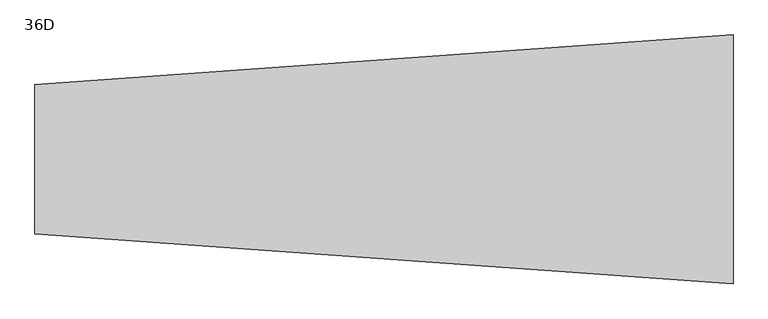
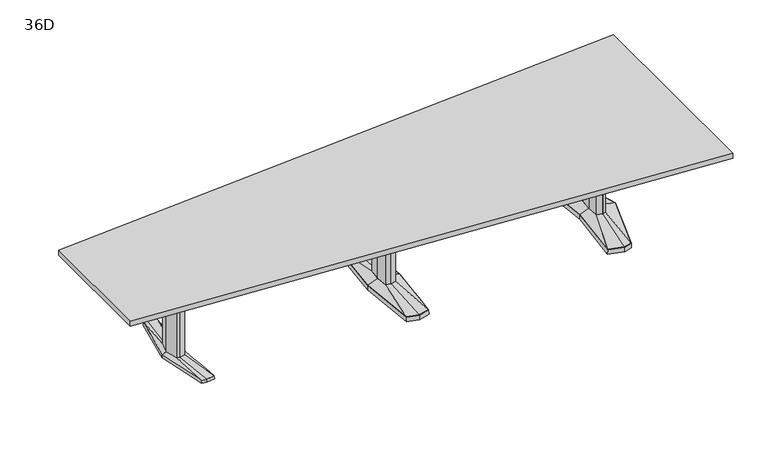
"""IFC4 building model written with IfcOpenShell, lengths in millimetres: furniture geometry, Coalesse_AM_Table_Conference_ETable2_Trapezoid_14ft_AluminiumBase : 36D."""

from ifc_helpers import new_model, si_unit, frame, origin, place, context, project, spatial, polyline, outline, extrude, faceted_brep, source, transform, mapped, element, save
from ifc_brep_helpers import plane_surface, spline_surface, advanced_brep


def furniture_36d_a6658d5b(model_context):
    return source(origin(), model_context, "Body", "SolidModel", [
        faceted_brep([(-81.2333791, -433.8053819, 38.1), (0.0, -455.556576, 38.1), (81.2333791, -433.8053819, 38.1), (119.0564774, 0.0, 38.1), (81.2333791, 433.8053819, 38.1), (0.0, 455.556576, 38.1), (-81.2333791, 433.8053819, 38.1), (-119.0564774, 0.0, 38.1), (-82.7182795, -435.0512063, 3.175), (-120.65, 0.0, 3.175), (-82.7182795, 435.0512063, 3.175), (0.0, 457.2, 3.175), (82.7182795, 435.0512063, 3.175), (120.65, 0.0, 3.175), (82.7182795, -435.0512063, 3.175), (0.0, -457.2, 3.175), (0.0, 429.2617927, 3.175), (-77.9676806, 408.3850278, 3.175), (-74.7019821, 382.9646737, 3.175), (0.0, 402.9670094, 3.175), (74.7019821, 382.9646737, 3.175), (77.9676806, 408.3850278, 3.175), (0.0, -429.2617927, 3.175), (77.9676806, -408.3850278, 3.175), (74.7019821, -382.9646737, 3.175), (0.0, -402.9670094, 3.175), (-74.7019821, -382.9646737, 3.175), (-77.9676806, -408.3850278, 3.175), (-71.8574262, 114.6326257, 3.175), (-82.5426076, 0.0, 3.175), (-71.8574262, -114.6326257, 3.175), (0.0, -133.8761372, 3.175), (71.8574262, -114.6326257, 3.175), (82.5426076, 0.0, 3.175), (71.8574262, 114.6326257, 3.175), (0.0, 133.8761372, 3.175), (0.0, 429.2617927, 0.0), (77.9676806, 408.3850278, 0.0), (74.7019821, 382.9646737, 0.0), (0.0, 402.9670094, 0.0), (-74.7019821, 382.9646737, 0.0), (-77.9676806, 408.3850278, 0.0), (0.0, -429.2617927, 0.0), (-77.9676806, -408.3850278, 0.0), (-74.7019821, -382.9646737, 0.0), (0.0, -402.9670094, 0.0), (74.7019821, -382.9646737, 0.0), (77.9676806, -408.3850278, 0.0), (-71.8574262, 114.6326257, 0.0), (0.0, 133.8761372, 0.0), (71.8574262, 114.6326257, 0.0), (82.5426076, 0.0, 0.0), (71.8574262, -114.6326257, 0.0), (0.0, -133.8761372, 0.0), (-71.8574262, -114.6326257, 0.0), (-82.5426076, 0.0, 0.0)], [[[0, 1, 2, 3, 4, 5, 6, 7]], [[8, 9, 10, 11, 12, 13, 14, 15], [16, 17, 18, 19, 20, 21], [22, 23, 24, 25, 26, 27], [28, 29, 30, 31, 32, 33, 34, 35]], [[1, 0, 8, 15]], [[2, 1, 15, 14]], [[3, 2, 14, 13]], [[4, 3, 13, 12]], [[5, 4, 12, 11]], [[6, 5, 11, 10]], [[7, 6, 10, 9]], [[0, 7, 9, 8]], [[36, 37, 38, 39, 40, 41]], [[42, 43, 44, 45, 46, 47]], [[48, 49, 50, 51, 52, 53, 54, 55]], [[36, 41, 17, 16]], [[41, 40, 18, 17]], [[40, 39, 19, 18]], [[39, 38, 20, 19]], [[38, 37, 21, 20]], [[37, 36, 16, 21]], [[42, 47, 23, 22]], [[47, 46, 24, 23]], [[46, 45, 25, 24]], [[45, 44, 26, 25]], [[44, 43, 27, 26]], [[43, 42, 22, 27]], [[48, 55, 29, 28]], [[55, 54, 30, 29]], [[54, 53, 31, 30]], [[53, 52, 32, 31]], [[52, 51, 33, 32]], [[51, 50, 34, 33]], [[50, 49, 35, 34]], [[49, 48, 28, 35]]]),
        faceted_brep([(-36.3832834, 84.6900825, 698.5), (-44.2774487, 0.0, 698.5), (-36.3832834, -84.6900825, 698.5), (0.0, -94.4335728, 698.5), (36.3832834, -84.6900825, 698.5), (44.2774487, 0.0, 698.5), (36.3832834, 84.6900825, 698.5), (0.0, 94.4335728, 698.5), (-36.3832834, 84.6900825, 63.5), (0.0, 94.4335728, 63.5), (36.3832834, 84.6900825, 63.5), (44.2774487, 0.0, 63.5), (36.3832834, -84.6900825, 63.5), (0.0, -94.4335728, 63.5), (-36.3832834, -84.6900825, 63.5), (-44.2774487, 0.0, 63.5)], [[[0, 1, 2, 3, 4, 5, 6, 7]], [[8, 9, 10, 11, 12, 13, 14, 15]], [[1, 0, 8, 15]], [[2, 1, 15, 14]], [[3, 2, 14, 13]], [[4, 3, 13, 12]], [[5, 4, 12, 11]], [[6, 5, 11, 10]], [[7, 6, 10, 9]], [[0, 7, 9, 8]]]),
        advanced_brep(
        [(-36.3832834, 84.6900825, 63.5), (-44.2774487, 0.0, 63.5), (-36.3832834, -84.6900825, 63.5), (0.0, -94.4335728, 63.5), (36.3832834, -84.6900825, 63.5), (44.2774487, 0.0, 63.5), (36.3832834, 84.6900825, 63.5), (0.0, 94.4335728, 63.5), (-81.2333791, 433.8053819, 38.1), (0.0, 455.556576, 38.1), (81.2333791, 433.8053819, 38.1), (119.0564774, 0.0, 38.1), (81.2333791, -433.8053819, 38.1), (0.0, -455.556576, 38.1), (-81.2333791, -433.8053819, 38.1), (-119.0564774, 0.0, 38.1)],
        [
            (0, 1),
            (1, 2),
            (2, 3),
            (3, 4),
            (4, 5),
            (5, 6),
            (6, 7),
            (7, 0),
            (8, 9),
            (9, 10),
            (10, 11),
            (11, 12),
            (12, 13),
            (13, 14),
            (14, 15),
            (15, 8),
            (15, 1),
            (0, 8),
            (14, 2),
            (13, 3),
            (12, 4),
            (11, 5),
            (10, 6),
            (9, 7),
        ],
        [
            plane_surface(frame((0.0, 0.0, 63.5), z_axis=(0.0, 0.0, 1.0000000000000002), x_axis=(-0.9659615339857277, -0.25868574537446, 0.0))),
            plane_surface(frame((0.0, 0.0, 38.1), z_axis=(0.0, 0.0, -1.0000000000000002), x_axis=(-0.9659615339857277, -0.25868574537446, 0.0))),
            spline_surface(1, 1, [[(-81.2333791, 433.8053819, 38.1), (-36.3832834, 84.6900825, 63.5)], [(-119.0564774, 0.0, 38.1), (-44.2774487, 0.0, 63.5)]], [2, 2], [2, 2], [0.0, 1.0], [0.0, 1.0]),
            spline_surface(1, 1, [[(-119.0564774, 0.0, 38.1), (-44.2774487, 0.0, 63.5)], [(-81.2333791, -433.8053819, 38.1), (-36.3832834, -84.6900825, 63.5)]], [2, 2], [2, 2], [0.0, 1.0], [0.0, 1.0]),
            spline_surface(1, 1, [[(-81.2333791, -433.8053819, 38.1), (-36.3832834, -84.6900825, 63.5)], [(0.0, -455.556576, 38.1), (0.0, -94.4335728, 63.5)]], [2, 2], [2, 2], [0.0, 1.0], [0.0, 1.0]),
            spline_surface(1, 1, [[(0.0, -455.556576, 38.1), (0.0, -94.4335728, 63.5)], [(81.2333791, -433.8053819, 38.1), (36.3832834, -84.6900825, 63.5)]], [2, 2], [2, 2], [0.0, 1.0], [0.0, 1.0]),
            spline_surface(1, 1, [[(81.2333791, -433.8053819, 38.1), (36.3832834, -84.6900825, 63.5)], [(119.0564774, 0.0, 38.1), (44.2774487, 0.0, 63.5)]], [2, 2], [2, 2], [0.0, 1.0], [0.0, 1.0]),
            spline_surface(1, 1, [[(119.0564774, 0.0, 38.1), (44.2774487, 0.0, 63.5)], [(81.2333791, 433.8053819, 38.1), (36.3832834, 84.6900825, 63.5)]], [2, 2], [2, 2], [0.0, 1.0], [0.0, 1.0]),
            spline_surface(1, 1, [[(81.2333791, 433.8053819, 38.1), (36.3832834, 84.6900825, 63.5)], [(0.0, 455.556576, 38.1), (0.0, 94.4335728, 63.5)]], [2, 2], [2, 2], [0.0, 1.0], [0.0, 1.0]),
            spline_surface(1, 1, [[(0.0, 455.556576, 38.1), (0.0, 94.4335728, 63.5)], [(-81.2333791, 433.8053819, 38.1), (-36.3832834, 84.6900825, 63.5)]], [2, 2], [2, 2], [0.0, 1.0], [0.0, 1.0]),
        ],
        [
            (0, [[1, 2, 3, 4, 5, 6, 7, 8]]),
            (1, [[9, 10, 11, 12, 13, 14, 15, 16]]),
            (2, [[-16, 17, -1, 18]]),
            (3, [[-15, 19, -2, -17]]),
            (4, [[-14, 20, -3, -19]]),
            (5, [[-13, 21, -4, -20]]),
            (6, [[-12, 22, -5, -21]]),
            (7, [[-11, 23, -6, -22]]),
            (8, [[-10, 24, -7, -23]]),
            (9, [[-9, -18, -8, -24]]),
        ],
    ),
        advanced_brep(
        [(-1526.8690971, -379.3768856, 25.4), (-1560.9982754, -94.605478, 36.5125), (-1580.2514743, -89.293702, 36.5125), (-1556.5944136, -371.5332654, 25.4), (-1463.7800038, -368.5071562, 25.4), (-1518.0708501, -87.0529327, 36.5125), (-1491.8577254, 0.3970149, 25.4), (-1509.9551707, 0.0, 36.5125), (-1463.7802502, 368.5172593, 25.4), (-1518.0708501, 87.0529327, 36.5125), (-1526.8689733, 379.3769183, 25.4), (-1560.9982754, 94.605478, 36.5125), (-1556.7722958, 371.4863276, 25.4), (-1580.2514743, 89.293702, 36.5125), (-1633.5039163, 0.0003516, 25.4), (-1604.1782751, 0.0, 36.5125), (-1490.2656242, 0.3968871, 3.175), (-1462.0875, -369.8264415, 3.175), (-1526.9400504, -381.0, 3.175), (-1557.9497317, -372.8174744, 3.175), (-1635.125, 0.0, 3.175), (-1558.1280745, 372.7704151, 3.175), (-1526.9400504, 381.0, 3.175), (-1462.0875, 369.8367279, 3.175), (-1561.6166764, 107.6121478, 3.175), (-1590.6370973, 99.6056872, 3.175), (-1617.3270585, 0.0, 3.175), (-1590.6370973, -99.6056872, 3.175), (-1561.6166764, -107.6121478, 3.175), (-1506.3252951, -97.8843184, 3.175), (-1497.1998387, 0.0, 3.175), (-1506.3252951, 97.8843184, 3.175), (-1525.4474312, 346.9152841, 3.175), (-1559.5732026, 337.9105158, 3.175), (-1560.6913109, 324.4807859, 3.175), (-1524.8788144, 333.9306305, 3.175), (-1472.2077418, 324.8641942, 3.175), (-1469.7998871, 337.3364985, 3.175), (-1525.4474312, -346.9152841, 3.175), (-1469.7998871, -337.3364985, 3.175), (-1472.2077418, -324.8641942, 3.175), (-1524.8788144, -333.9306305, 3.175), (-1560.6913109, -324.4807859, 3.175), (-1559.5732026, -337.9105158, 3.175), (-1561.6166764, 107.6121478, 0.0), (-1506.3252951, 97.8843184, 0.0), (-1497.1998387, 0.0, 0.0), (-1506.3252951, -97.8843184, 0.0), (-1561.6166764, -107.6121478, 0.0), (-1590.6370973, -99.6056872, 0.0), (-1617.3270585, 0.0, 0.0), (-1590.6370973, 99.6056872, 0.0), (-1525.4474312, 346.9152841, 0.0), (-1469.7998871, 337.3364985, 0.0), (-1472.2077418, 324.8641942, 0.0), (-1524.8788144, 333.9306305, 0.0), (-1560.6913109, 324.4807859, 0.0), (-1559.5732026, 337.9105158, 0.0), (-1525.4474312, -346.9152841, 0.0), (-1559.5732026, -337.9105158, 0.0), (-1560.6913109, -324.4807859, 0.0), (-1524.8788144, -333.9306305, 0.0), (-1472.2077418, -324.8641942, 0.0), (-1469.7998871, -337.3364985, 0.0), (-1580.2514743, 89.293702, 698.5), (-1604.1782751, 0.0, 698.5), (-1580.2514743, -89.293702, 698.5), (-1560.9982754, -94.605478, 698.5), (-1518.0708501, -87.0529327, 698.5), (-1509.9551707, 0.0, 698.5), (-1518.0708501, 87.0529327, 698.5), (-1560.9982754, 94.605478, 698.5)],
        [
            (0, 1),
            (1, 2),
            (2, 3),
            (3, 0),
            (0, 4),
            (4, 5),
            (5, 1),
            (4, 6),
            (6, 7),
            (7, 5),
            (6, 8),
            (8, 9),
            (9, 7),
            (8, 10),
            (10, 11),
            (11, 9),
            (10, 12),
            (12, 13),
            (13, 11),
            (12, 14),
            (14, 15),
            (15, 13),
            (2, 15),
            (14, 3),
            (16, 17),
            (17, 18),
            (18, 19),
            (19, 20),
            (20, 21),
            (21, 22),
            (22, 23),
            (23, 16),
            (24, 25),
            (25, 26),
            (26, 27),
            (27, 28),
            (28, 29),
            (29, 30),
            (30, 31),
            (31, 24),
            (32, 33),
            (33, 34),
            (34, 35),
            (35, 36),
            (36, 37),
            (37, 32),
            (38, 39),
            (39, 40),
            (40, 41),
            (41, 42),
            (42, 43),
            (43, 38),
            (23, 8),
            (6, 16),
            (22, 10),
            (21, 12),
            (20, 14),
            (19, 3),
            (18, 0),
            (17, 4),
            (44, 45),
            (45, 46),
            (46, 47),
            (47, 48),
            (48, 49),
            (49, 50),
            (50, 51),
            (51, 44),
            (52, 53),
            (53, 54),
            (54, 55),
            (55, 56),
            (56, 57),
            (57, 52),
            (58, 59),
            (59, 60),
            (60, 61),
            (61, 62),
            (62, 63),
            (63, 58),
            (51, 25),
            (24, 44),
            (50, 26),
            (49, 27),
            (48, 28),
            (47, 29),
            (46, 30),
            (45, 31),
            (57, 33),
            (32, 52),
            (56, 34),
            (55, 35),
            (54, 36),
            (53, 37),
            (63, 39),
            (38, 58),
            (62, 40),
            (61, 41),
            (60, 42),
            (59, 43),
            (64, 65),
            (65, 66),
            (66, 67),
            (67, 68),
            (68, 69),
            (69, 70),
            (70, 71),
            (71, 64),
            (64, 13),
            (15, 65),
            (2, 66),
            (1, 67),
            (5, 68),
            (7, 69),
            (9, 70),
            (11, 71),
        ],
        [
            spline_surface(1, 1, [[(-1556.5944136, -371.5332654, 25.4), (-1580.2514743, -89.293702, 36.5125)], [(-1526.8690971, -379.3768856, 25.4), (-1560.9982754, -94.605478, 36.5125)]], [2, 2], [2, 2], [0.0, 1.0], [0.0, 1.0]),
            spline_surface(1, 1, [[(-1526.8690971, -379.3768856, 25.4), (-1560.9982754, -94.605478, 36.5125)], [(-1463.7800038, -368.5071562, 25.4), (-1518.0708501, -87.0529327, 36.5125)]], [2, 2], [2, 2], [0.0, 1.0], [0.0, 1.0]),
            spline_surface(1, 1, [[(-1463.7800038, -368.5071562, 25.4), (-1518.0708501, -87.0529327, 36.5125)], [(-1491.8577254, 0.3970149, 25.4), (-1509.9551707, 0.0, 36.5125)]], [2, 2], [2, 2], [0.0, 1.0], [0.0, 1.0]),
            spline_surface(1, 1, [[(-1491.8577254, 0.3970149, 25.4), (-1509.9551707, 0.0, 36.5125)], [(-1463.7802502, 368.5172593, 25.4), (-1518.0708501, 87.0529327, 36.5125)]], [2, 2], [2, 2], [0.0, 1.0], [0.0, 1.0]),
            spline_surface(1, 1, [[(-1463.7802502, 368.5172593, 25.4), (-1518.0708501, 87.0529327, 36.5125)], [(-1526.8689733, 379.3769183, 25.4), (-1560.9982754, 94.605478, 36.5125)]], [2, 2], [2, 2], [0.0, 1.0], [0.0, 1.0]),
            spline_surface(1, 1, [[(-1526.8689733, 379.3769183, 25.4), (-1560.9982754, 94.605478, 36.5125)], [(-1556.7722958, 371.4863276, 25.4), (-1580.2514743, 89.293702, 36.5125)]], [2, 2], [2, 2], [0.0, 1.0], [0.0, 1.0]),
            spline_surface(1, 1, [[(-1556.7722958, 371.4863276, 25.4), (-1580.2514743, 89.293702, 36.5125)], [(-1633.5039163, 0.0003516, 25.4), (-1604.1782751, 0.0, 36.5125)]], [2, 2], [2, 2], [0.0, 1.0], [0.0, 1.0]),
            spline_surface(1, 1, [[(-1633.5039163, 0.0003516, 25.4), (-1604.1782751, 0.0, 36.5125)], [(-1556.5944136, -371.5332654, 25.4), (-1580.2514743, -89.293702, 36.5125)]], [2, 2], [2, 2], [0.0, 1.0], [0.0, 1.0]),
            plane_surface(frame((-1527.4404414, 0.0450143, 3.175), z_axis=(0.0, 0.0, -1.0), x_axis=(0.9669048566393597, -0.2551372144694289, 0.0))),
            plane_surface(frame((-1476.1765621, 185.1168075, 3.175), z_axis=(0.9945699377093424, -0.07585840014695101, 0.0712470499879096), x_axis=(0.07605167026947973, 0.9971038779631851, 0.0))),
            plane_surface(frame((-1494.5137752, 375.418364, 3.175), z_axis=(0.1692071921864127, 0.9830019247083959, 0.07124704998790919), x_axis=(-0.985506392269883, 0.16963829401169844, 0.0))),
            plane_surface(frame((-1542.5340624, 376.8852076, 3.175), z_axis=(-0.2544888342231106, 0.9644476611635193, 0.07124704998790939), x_axis=(-0.9669048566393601, -0.25513721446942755, 0.0))),
            plane_surface(frame((-1596.6265372, 186.3852076, 3.175), z_axis=(-0.9768383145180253, 0.2017690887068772, 0.07124704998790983), x_axis=(-0.20228315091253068, -0.9793270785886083, 0.0))),
            plane_surface(frame((-1596.5373658, -186.4087372, 3.175), z_axis=(-0.9767507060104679, -0.20219276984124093, 0.07124704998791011), x_axis=(0.2027079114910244, -0.9792392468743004, 0.0))),
            plane_surface(frame((-1542.444891, -376.9087372, 3.175), z_axis=(-0.2544888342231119, -0.9644476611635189, 0.0712470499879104), x_axis=(0.9669048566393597, -0.2551372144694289, 0.0))),
            plane_surface(frame((-1494.5137752, -375.4132207, 3.175), z_axis=(0.16935861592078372, -0.982975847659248, 0.07124704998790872), x_axis=(0.9854802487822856, 0.16979010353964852, 0.0))),
            plane_surface(frame((-1476.1765621, -184.7147772, 3.175), z_axis=(0.9945820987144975, 0.07569878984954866, 0.07124704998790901), x_axis=(-0.07589165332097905, 0.9971160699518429, 0.0))),
            plane_surface(frame((-1564.3758979, 106.8509046, 0.0), z_axis=(0.0, 0.0, -1.0000000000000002), x_axis=(0.9639855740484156, 0.26595453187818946, 0.0))),
            plane_surface(frame((-1561.6166764, 107.6121478, 3.175), z_axis=(-0.26595453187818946, 0.9639855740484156, 0.0), x_axis=(0.0, 0.0, -1.0))),
            plane_surface(frame((-1590.6370973, 99.6056872, 3.175), z_axis=(-0.9659241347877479, 0.2588253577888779, 0.0), x_axis=(0.0, 0.0, -1.0))),
            plane_surface(frame((-1617.3270585, 0.0, 3.175), z_axis=(-0.9659241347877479, -0.2588253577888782, 0.0), x_axis=(0.0, 0.0, -1.0))),
            plane_surface(frame((-1590.6370973, -99.6056872, 3.175), z_axis=(-0.26595453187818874, -0.9639855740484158, 0.0), x_axis=(0.0, 0.0, -1.0))),
            plane_surface(frame((-1561.6166764, -107.6121478, 3.175), z_axis=(0.17327617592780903, -0.9848732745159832, 0.0), x_axis=(0.0, 0.0, -1.0))),
            plane_surface(frame((-1506.3252951, -97.8843184, 3.175), z_axis=(0.9956824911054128, -0.0928244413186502, 0.0), x_axis=(0.0, 0.0, -1.0))),
            plane_surface(frame((-1497.1998387, 0.0, 3.175), z_axis=(0.9956824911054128, 0.09282444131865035, 0.0), x_axis=(0.0, 0.0, -1.0))),
            plane_surface(frame((-1506.3252951, 97.8843184, 3.175), z_axis=(0.17327617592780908, 0.984873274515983, 0.0), x_axis=(0.0, 0.0, -1.0))),
            plane_surface(frame((-1525.4474312, 346.9152841, 3.175), z_axis=(-0.25513721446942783, 0.9669048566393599, 0.0), x_axis=(0.0, 0.0, -1.0))),
            plane_surface(frame((-1559.5732026, 337.9105158, 3.175), z_axis=(-0.9965521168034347, 0.0829691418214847, 0.0), x_axis=(0.0, 0.0, -1.0))),
            plane_surface(frame((-1560.6913109, 324.4807859, 3.175), z_axis=(0.25513721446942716, -0.9669048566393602, 0.0), x_axis=(0.0, 0.0, -1.0))),
            plane_surface(frame((-1524.8788144, 333.9306305, 3.175), z_axis=(-0.16963829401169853, -0.985506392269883, 0.0), x_axis=(0.0, 0.0, -1.0))),
            plane_surface(frame((-1472.2077418, 324.8641942, 3.175), z_axis=(0.9818699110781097, -0.18955600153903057, 0.0), x_axis=(0.0, 0.0, -1.0))),
            plane_surface(frame((-1469.7998871, 337.3364985, 3.175), z_axis=(0.16963829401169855, 0.9855063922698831, 0.0), x_axis=(0.0, 0.0, -1.0))),
            plane_surface(frame((-1525.4474312, -346.9152841, 3.175), z_axis=(0.1696382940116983, -0.9855063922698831, 0.0), x_axis=(0.0, 0.0, -1.0))),
            plane_surface(frame((-1469.7998871, -337.3364985, 3.175), z_axis=(0.9818699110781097, 0.18955600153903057, 0.0), x_axis=(0.0, 0.0, -1.0))),
            plane_surface(frame((-1472.2077418, -324.8641942, 3.175), z_axis=(-0.16963829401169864, 0.985506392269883, 0.0), x_axis=(0.0, 0.0, -1.0))),
            plane_surface(frame((-1524.8788144, -333.9306305, 3.175), z_axis=(0.2551372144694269, 0.9669048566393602, 0.0), x_axis=(0.0, 0.0, -1.0))),
            plane_surface(frame((-1560.6913109, -324.4807859, 3.175), z_axis=(-0.9965521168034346, -0.0829691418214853, 0.0), x_axis=(0.0, 0.0, -1.0))),
            plane_surface(frame((-1559.5732026, -337.9105158, 3.175), z_axis=(-0.2551372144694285, -0.9669048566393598, 0.0), x_axis=(0.0, 0.0, -1.0))),
            plane_surface(frame((-1604.1782751, 0.0, 698.5), z_axis=(0.0, 0.0, 1.0), x_axis=(-0.25882535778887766, -0.965924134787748, 0.0))),
            plane_surface(frame((-1580.2514743, 89.293702, 698.5), z_axis=(-0.965924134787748, 0.25882535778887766, 0.0), x_axis=(0.0, 0.0, -1.0))),
            plane_surface(frame((-1604.1782751, 0.0, 698.5), z_axis=(-0.965924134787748, -0.2588253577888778, 0.0), x_axis=(0.0, 0.0, -1.0))),
            plane_surface(frame((-1580.2514743, -89.293702, 698.5), z_axis=(-0.2659545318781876, -0.963985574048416, 0.0), x_axis=(0.0, 0.0, -1.0))),
            plane_surface(frame((-1560.9982754, -94.605478, 698.5), z_axis=(0.1732761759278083, -0.9848732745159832, 0.0), x_axis=(0.0, 0.0, -1.0))),
            plane_surface(frame((-1518.0708501, -87.0529327, 698.5), z_axis=(0.9956824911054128, -0.0928244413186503, 0.0), x_axis=(0.0, 0.0, -1.0))),
            plane_surface(frame((-1509.9551707, 0.0, 698.5), z_axis=(0.9956824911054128, 0.09282444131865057, 0.0), x_axis=(0.0, 0.0, -1.0))),
            plane_surface(frame((-1518.0708501, 87.0529327, 698.5), z_axis=(0.17327617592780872, 0.9848732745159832, 0.0), x_axis=(0.0, 0.0, -1.0))),
            plane_surface(frame((-1560.9982754, 94.605478, 698.5), z_axis=(-0.26595453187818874, 0.9639855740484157, 0.0), x_axis=(0.0, 0.0, -1.0))),
        ],
        [
            (0, [[1, 2, 3, 4]]),
            (1, [[-1, 5, 6, 7]]),
            (2, [[-6, 8, 9, 10]]),
            (3, [[-9, 11, 12, 13]]),
            (4, [[-12, 14, 15, 16]]),
            (5, [[-15, 17, 18, 19]]),
            (6, [[-18, 20, 21, 22]]),
            (7, [[-3, 23, -21, 24]]),
            (8, [[25, 26, 27, 28, 29, 30, 31, 32], [33, 34, 35, 36, 37, 38, 39, 40], [41, 42, 43, 44, 45, 46], [47, 48, 49, 50, 51, 52]]),
            (9, [[-32, 53, -11, 54]]),
            (10, [[-31, 55, -14, -53]]),
            (11, [[-30, 56, -17, -55]]),
            (12, [[-29, 57, -20, -56]]),
            (13, [[-28, 58, -24, -57]]),
            (14, [[-27, 59, -4, -58]]),
            (15, [[-26, 60, -5, -59]]),
            (16, [[-25, -54, -8, -60]]),
            (17, [[61, 62, 63, 64, 65, 66, 67, 68]]),
            (17, [[69, 70, 71, 72, 73, 74]]),
            (17, [[75, 76, 77, 78, 79, 80]]),
            (18, [[-68, 81, -33, 82]]),
            (19, [[-67, 83, -34, -81]]),
            (20, [[-66, 84, -35, -83]]),
            (21, [[-65, 85, -36, -84]]),
            (22, [[-64, 86, -37, -85]]),
            (23, [[-63, 87, -38, -86]]),
            (24, [[-62, 88, -39, -87]]),
            (25, [[-61, -82, -40, -88]]),
            (26, [[-74, 89, -41, 90]]),
            (27, [[-73, 91, -42, -89]]),
            (28, [[-72, 92, -43, -91]]),
            (29, [[-71, 93, -44, -92]]),
            (30, [[-70, 94, -45, -93]]),
            (31, [[-69, -90, -46, -94]]),
            (32, [[-80, 95, -47, 96]]),
            (33, [[-79, 97, -48, -95]]),
            (34, [[-78, 98, -49, -97]]),
            (35, [[-77, 99, -50, -98]]),
            (36, [[-76, 100, -51, -99]]),
            (37, [[-75, -96, -52, -100]]),
            (38, [[101, 102, 103, 104, 105, 106, 107, 108]]),
            (39, [[-101, 109, -22, 110]]),
            (40, [[-102, -110, -23, 111]]),
            (41, [[-103, -111, -2, 112]]),
            (42, [[-104, -112, -7, 113]]),
            (43, [[-105, -113, -10, 114]]),
            (44, [[-106, -114, -13, 115]]),
            (45, [[-107, -115, -16, 116]]),
            (46, [[-108, -116, -19, -109]]),
        ],
    ),
        faceted_brep([(1515.4306835, 455.5848221, 38.1), (1405.8531277, 426.2263816, 38.1), (1447.0163717, 0.0, 38.1), (1405.8531277, -426.2263816, 38.1), (1515.4306835, -455.5848221, 38.1), (1571.5570396, -440.5478297, 38.1), (1708.8684269, 0.0, 38.1), (1571.5570396, 440.5478297, 38.1), (1515.4306754, 457.2283104, 3.175), (1572.8124472, 441.8549756, 3.175), (1710.53125, 0.0, 3.175), (1572.8124472, -441.8549756, 3.175), (1515.4306754, -457.2283104, 3.175), (1404.14375, -427.4118891, 3.175), (1445.4214856, 0.0, 3.175), (1404.14375, 427.4118891, 3.175), (1519.020115, 428.3273875, 3.175), (1413.9718228, 402.1057253, 3.175), (1422.090518, 377.985069, 3.175), (1522.6095466, 401.0699529, 3.175), (1573.1691725, 387.524361, 3.175), (1572.3631061, 414.0360954, 3.175), (1519.020115, -428.3273875, 3.175), (1572.3631061, -414.0360954, 3.175), (1573.1691725, -387.524361, 3.175), (1522.6095466, -401.0699529, 3.175), (1422.090518, -377.985069, 3.175), (1413.9718228, -402.1057253, 3.175), (1645.6153621, 0.0, 3.175), (1613.3459611, 120.4193755, 3.175), (1564.6987222, 133.471665, 3.175), (1484.8180526, 119.4176561, 3.175), (1473.6868466, 0.0, 3.175), (1484.8180526, -119.4176561, 3.175), (1564.6987222, -133.471665, 3.175), (1613.3459611, -120.4193755, 3.175), (1519.020115, 428.3273875, 0.0), (1572.3631061, 414.0360954, 0.0), (1573.1691725, 387.524361, 0.0), (1522.6095466, 401.0699529, 0.0), (1422.090518, 377.985069, 0.0), (1413.9718228, 402.1057253, 0.0), (1519.020115, -428.3273875, 0.0), (1413.9718228, -402.1057253, 0.0), (1422.090518, -377.985069, 0.0), (1522.6095466, -401.0699529, 0.0), (1573.1691725, -387.524361, 0.0), (1572.3631061, -414.0360954, 0.0), (1645.6153621, 0.0, 0.0), (1613.3459611, -120.4193755, 0.0), (1564.6987222, -133.471665, 0.0), (1484.8180526, -119.4176561, 0.0), (1473.6868466, 0.0, 0.0), (1484.8180526, 119.4176561, 0.0), (1564.6987222, 133.471665, 0.0), (1613.3459611, 120.4193755, 0.0)], [[[0, 1, 2, 3, 4, 5, 6, 7]], [[8, 9, 10, 11, 12, 13, 14, 15], [16, 17, 18, 19, 20, 21], [22, 23, 24, 25, 26, 27], [28, 29, 30, 31, 32, 33, 34, 35]], [[7, 9, 8, 0]], [[6, 10, 9, 7]], [[5, 11, 10, 6]], [[4, 12, 11, 5]], [[3, 13, 12, 4]], [[2, 14, 13, 3]], [[1, 15, 14, 2]], [[0, 8, 15, 1]], [[36, 37, 38, 39, 40, 41]], [[42, 43, 44, 45, 46, 47]], [[48, 49, 50, 51, 52, 53, 54, 55]], [[36, 16, 21, 37]], [[37, 21, 20, 38]], [[38, 20, 19, 39]], [[39, 19, 18, 40]], [[40, 18, 17, 41]], [[41, 17, 16, 36]], [[42, 22, 27, 43]], [[43, 27, 26, 44]], [[44, 26, 25, 45]], [[45, 25, 24, 46]], [[46, 24, 23, 47]], [[47, 23, 22, 42]], [[48, 28, 35, 49]], [[49, 35, 34, 50]], [[50, 34, 33, 51]], [[51, 33, 32, 52]], [[52, 32, 31, 53]], [[53, 31, 30, 54]], [[54, 30, 29, 55]], [[55, 29, 28, 48]]]),
        faceted_brep([(1606.1710836, 0.0, 698.5), (1582.2358546, 89.3188359, 698.5), (1565.3824984, 93.8406728, 698.5), (1562.9826511, 94.4845635, 698.5), (1520.055146, 86.9320037, 698.5), (1511.9520056, 0.0, 698.5), (1520.055146, -86.9320037, 698.5), (1562.9826511, -94.4845635, 698.5), (1565.3824984, -93.8406728, 698.5), (1582.2358546, -89.3188359, 698.5), (1606.1710836, 0.0, 63.5), (1582.2358546, -89.3188359, 63.5), (1565.3824984, -93.8406728, 63.5), (1562.9826511, -94.4845635, 63.5), (1520.055146, -86.9320037, 63.5), (1511.9520056, 0.0, 63.5), (1520.055146, 86.9320037, 63.5), (1562.9826511, 94.4845635, 63.5), (1565.3824984, 93.8406728, 63.5), (1582.2358546, 89.3188359, 63.5)], [[[0, 1, 2, 3, 4, 5, 6, 7, 8, 9]], [[10, 11, 12, 13, 14, 15, 16, 17, 18, 19]], [[9, 11, 10, 0]], [[8, 12, 11, 9]], [[7, 13, 12, 8]], [[6, 14, 13, 7]], [[5, 15, 14, 6]], [[4, 16, 15, 5]], [[3, 17, 16, 4]], [[2, 18, 17, 3]], [[1, 19, 18, 2]], [[0, 10, 19, 1]]]),
        advanced_brep(
        [(1562.9826511, 94.4845635, 63.5), (1520.055146, 86.9320037, 63.5), (1511.9520056, 0.0, 63.5), (1520.055146, -86.9320037, 63.5), (1562.9826511, -94.4845635, 63.5), (1582.2358546, -89.3188359, 63.5), (1606.1710836, 0.0, 63.5), (1582.2358546, 89.3188359, 63.5), (1515.4306835, 455.5848221, 38.1), (1571.5570396, 440.5478297, 38.1), (1708.8684269, 0.0, 38.1), (1571.5570396, -440.5478297, 38.1), (1515.4306835, -455.5848221, 38.1), (1405.8531277, -426.2263816, 38.1), (1447.0163717, 0.0, 38.1), (1405.8531277, 426.2263816, 38.1)],
        [
            (0, 1),
            (1, 2),
            (2, 3),
            (3, 4),
            (4, 5),
            (5, 6),
            (6, 7),
            (7, 0),
            (8, 9),
            (9, 10),
            (10, 11),
            (11, 12),
            (12, 13),
            (13, 14),
            (14, 15),
            (15, 8),
            (8, 0),
            (7, 9),
            (6, 10),
            (5, 11),
            (4, 12),
            (3, 13),
            (2, 14),
            (1, 15),
        ],
        [
            plane_surface(frame((1556.0837991, 0.0, 63.5), z_axis=(0.0, 0.0, 1.0), x_axis=(-0.25884244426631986, -0.9659195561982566, 0.0))),
            plane_surface(frame((1517.6958125, 0.0, 38.1), z_axis=(0.0, 0.0, -1.0), x_axis=(-0.25884244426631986, -0.9659195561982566, 0.0))),
            spline_surface(1, 1, [[(1515.4306835, 455.5848221, 38.1), (1571.5570396, 440.5478297, 38.1)], [(1562.9826511, 94.4845635, 63.5), (1582.2358546, 89.3188359, 63.5)]], [2, 2], [2, 2], [0.0, 1.0], [0.0, 1.0]),
            spline_surface(1, 1, [[(1571.5570396, 440.5478297, 38.1), (1708.8684269, 0.0, 38.1)], [(1582.2358546, 89.3188359, 63.5), (1606.1710836, 0.0, 63.5)]], [2, 2], [2, 2], [0.0, 1.0], [0.0, 1.0]),
            spline_surface(1, 1, [[(1708.8684269, 0.0, 38.1), (1571.5570396, -440.5478297, 38.1)], [(1606.1710836, 0.0, 63.5), (1582.2358546, -89.3188359, 63.5)]], [2, 2], [2, 2], [0.0, 1.0], [0.0, 1.0]),
            spline_surface(1, 1, [[(1571.5570396, -440.5478297, 38.1), (1515.4306835, -455.5848221, 38.1)], [(1582.2358546, -89.3188359, 63.5), (1562.9826511, -94.4845635, 63.5)]], [2, 2], [2, 2], [0.0, 1.0], [0.0, 1.0]),
            spline_surface(1, 1, [[(1515.4306835, -455.5848221, 38.1), (1405.8531277, -426.2263816, 38.1)], [(1562.9826511, -94.4845635, 63.5), (1520.055146, -86.9320037, 63.5)]], [2, 2], [2, 2], [0.0, 1.0], [0.0, 1.0]),
            spline_surface(1, 1, [[(1405.8531277, -426.2263816, 38.1), (1447.0163717, 0.0, 38.1)], [(1520.055146, -86.9320037, 63.5), (1511.9520056, 0.0, 63.5)]], [2, 2], [2, 2], [0.0, 1.0], [0.0, 1.0]),
            spline_surface(1, 1, [[(1447.0163717, 0.0, 38.1), (1405.8531277, 426.2263816, 38.1)], [(1511.9520056, 0.0, 63.5), (1520.055146, 86.9320037, 63.5)]], [2, 2], [2, 2], [0.0, 1.0], [0.0, 1.0]),
            spline_surface(1, 1, [[(1405.8531277, 426.2263816, 38.1), (1515.4306835, 455.5848221, 38.1)], [(1520.055146, 86.9320037, 63.5), (1562.9826511, 94.4845635, 63.5)]], [2, 2], [2, 2], [0.0, 1.0], [0.0, 1.0]),
        ],
        [
            (0, [[1, 2, 3, 4, 5, 6, 7, 8]]),
            (1, [[9, 10, 11, 12, 13, 14, 15, 16]]),
            (2, [[17, -8, 18, -9]]),
            (3, [[-18, -7, 19, -10]]),
            (4, [[-19, -6, 20, -11]]),
            (5, [[-20, -5, 21, -12]]),
            (6, [[-21, -4, 22, -13]]),
            (7, [[-22, -3, 23, -14]]),
            (8, [[-23, -2, 24, -15]]),
            (9, [[-24, -1, -17, -16]]),
        ],
    ),
        extrude(outline(polyline([(96.8375, 698.5), (103.1875, 698.5), (103.1875, 476.25), (-103.1875, 476.25), (-103.1875, 698.5), (-96.8375, 698.5), (-96.8375, 482.6), (96.8375, 482.6), (96.8375, 698.5)])), frame((-1509.7125, 0.0, 0.0), z_axis=(1.0, 0.0, 0.0), x_axis=(0.0, 1.0, 0.0)), (0.0, 0.0, 1.0), 3021.80625),
        extrude(outline(polyline([(2133.6, 762.0), (2133.6, -762.0), (-2133.6, -457.2), (-2133.6, 457.2), (2133.6, 762.0)])), frame((0.0, 0.0, 698.5), z_axis=(0.0, 0.0, 1.0), x_axis=(1.0, 0.0, 0.0)), (0.0, 0.0, 1.0), 38.1),
    ])


if __name__ == "__main__":
    model = new_model("IFC4")
    model_context = context("Model", 3, world=origin())
    ifc_project = project(units=[si_unit("LENGTHUNIT", "METRE", prefix="MILLI")], contexts=[model_context])
    site = spatial("IfcSite", under=ifc_project)
    building = spatial("IfcBuilding", under=site)
    placement = place(None, origin())
    furniture_36d_shape = furniture_36d_a6658d5b(model_context)
    element("IfcFurniture", 1, ObjectType="Coalesse_AM_Table_Conference_ETable2_Trapezoid_14ft_AluminiumBase : 36D", at=placement, inside=building, context=model_context, shape_type="MappedRepresentation", body=[
        mapped(furniture_36d_shape, transform((0.0, 0.0, 0.0), x_axis=(1.0, 0.0, 0.0), y_axis=(0.0, 1.0, 0.0), z_axis=(0.0, 0.0, 1.0))),
    ])
    save(model, "model.ifc")
